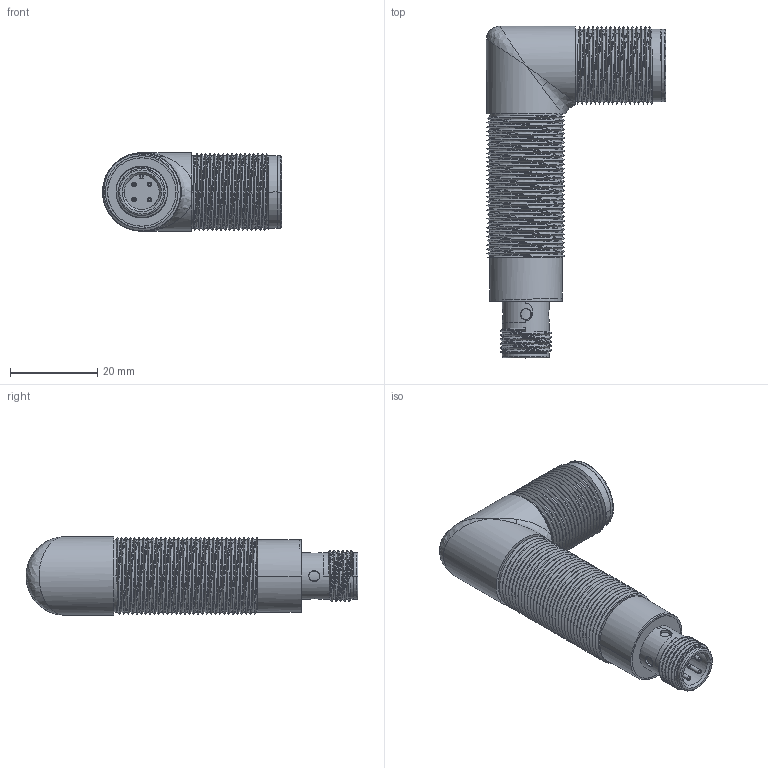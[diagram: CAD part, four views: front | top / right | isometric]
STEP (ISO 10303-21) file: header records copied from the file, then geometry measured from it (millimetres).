
FILE_DESCRIPTION((''),'2;1');
FILE_NAME('M18-2021-0310_ASM','2021-07-29T',('dengwei'),(''),'PRO/ENGINEER BY PARAMETRIC TECHNOLOGY CORPORATION, 2011310','PRO/ENGINEER BY PARAMETRIC TECHNOLOGY CORPORATION, 2011310','');
FILE_SCHEMA(('CONFIG_CONTROL_DESIGN'));
Length unit declared in the file: millimetre
Products named in the file (6): HR-I10___1_1; 1_1_1; 11111_ASM_1_ASM_ASM_1_ASM; BOTTOM-COVER; JACK-COVER; M18-2021-0310_ASM
Assembly tree (5 placements, depth 3):
  M18-2021-0310_ASM
    11111_ASM_1_ASM_ASM_1_ASM
      HR-I10___1_1
      1_1_1
    BOTTOM-COVER
    JACK-COVER
Bounding box: 41 x 76 x 18 mm (x, y, z)
Volume: 5221.6 mm3; surface area: 13441 mm2
Topology: 4 solids, 4 shells, 254 faces, 690 edges, 454 vertices
Faces by surface type: cylinder 153, bspline 60, plane 35, torus 4, cone 2
Entity records: 24373 total; most frequent: CARTESIAN_POINT 18583, ORIENTED_EDGE 1366, DIRECTION 884, EDGE_CURVE 683, VERTEX_POINT 454, B_SPLINE_CURVE_WITH_KNOTS 343, AXIS2_PLACEMENT_3D 337, EDGE_LOOP 275
